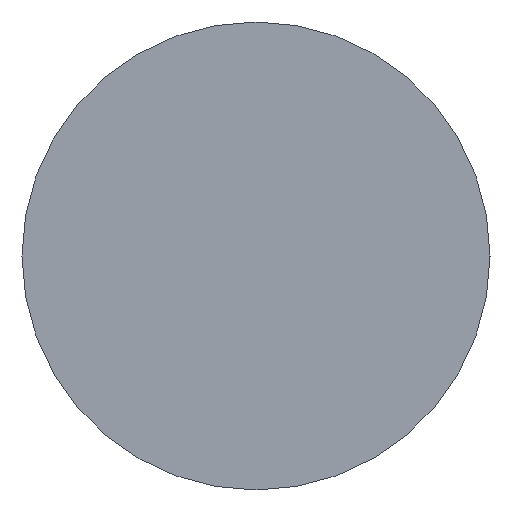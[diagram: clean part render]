
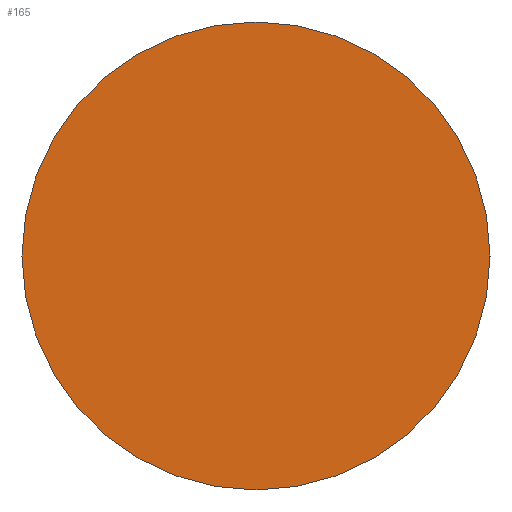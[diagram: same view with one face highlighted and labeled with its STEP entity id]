
A CAD part, left-side view. The second image highlights one B-rep face of the part: STEP entity #165.
In plain terms, the highlighted planar face has unit normal (-1, 0, 0).
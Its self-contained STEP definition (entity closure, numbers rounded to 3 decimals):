
#129=AXIS2_PLACEMENT_3D('Circle Axis2P3D',#127,#128,$) ;
#146=AXIS2_PLACEMENT_3D('Circle Axis2P3D',#144,#145,$) ;
#159=AXIS2_PLACEMENT_3D('Plane Axis2P3D',#156,#157,#158) ;
#110=CARTESIAN_POINT('Vertex',(-44.5,-6.5,0.)) ;
#124=CARTESIAN_POINT('Vertex',(-44.5,6.5,0.)) ;
#127=CARTESIAN_POINT('Axis2P3D Location',(-44.5,0.,0.)) ;
#144=CARTESIAN_POINT('Axis2P3D Location',(-44.5,0.,0.)) ;
#156=CARTESIAN_POINT('Axis2P3D Location',(-44.5,0.,0.)) ;
#128=DIRECTION('Axis2P3D Direction',(-1.,0.,0.)) ;
#145=DIRECTION('Axis2P3D Direction',(-1.,0.,0.)) ;
#157=DIRECTION('Axis2P3D Direction',(-1.,0.,0.)) ;
#158=DIRECTION('Axis2P3D XDirection',(0.,-1.,0.)) ;
#162=ORIENTED_EDGE('',*,*,#131,.T.) ;
#163=ORIENTED_EDGE('',*,*,#148,.T.) ;
#165=ADVANCED_FACE('Corps principal',(#164),#160,.T.) ;
#130=CIRCLE('generated circle',#129,6.5) ;
#147=CIRCLE('generated circle',#146,6.5) ;
#131=EDGE_CURVE('',#111,#125,#130,.T.) ;
#148=EDGE_CURVE('',#125,#111,#147,.T.) ;
#161=EDGE_LOOP('',(#162,#163)) ;
#164=FACE_OUTER_BOUND('',#161,.T.) ;
#160=PLANE('Plane',#159) ;
#111=VERTEX_POINT('',#110) ;
#125=VERTEX_POINT('',#124) ;
